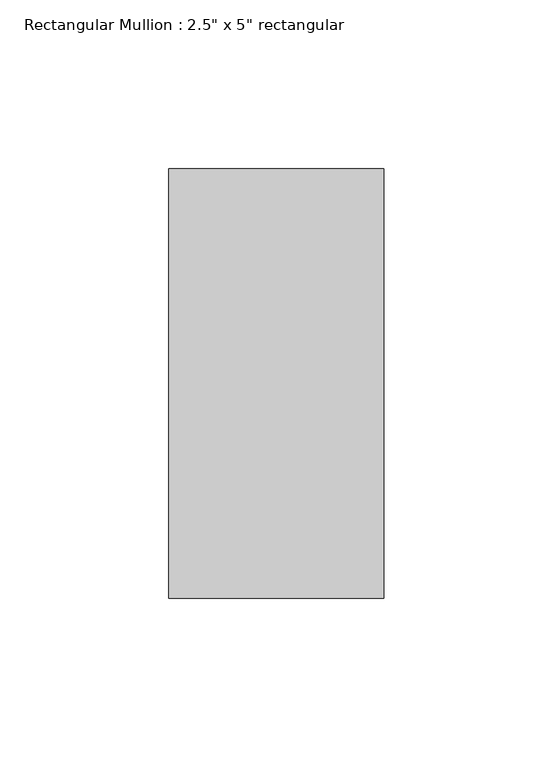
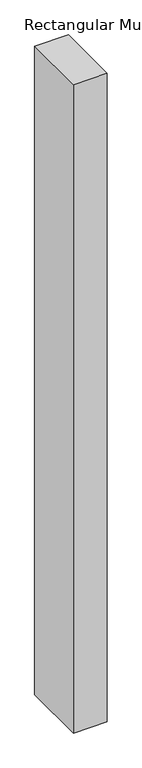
"""IFC4 building model written with IfcOpenShell, lengths in millimetres: member geometry."""

import ifcopenshell
import ifcopenshell.guid

model = None  # the IFC model being written
_history = None  # IfcOwnerHistory: only IFC2X3 demands one
_inside = {}  # id of a spatial element -> (the spatial element, [elements in it])
_under = {}  # id of a project, library or spatial element -> (it, [spatial elements below it])
_declared = {}  # id of a project -> (the project, [libraries it declares])
_typed = {}  # id of a type object -> (the type object, [elements of that type])
_made_of = {}  # id of a material, layer set ... -> (it, [elements and type objects made of it])


def new_model(schema):
    """Start an empty IFC model of exactly this schema.

    Asked for "IFC4X3", IfcOpenShell would pick the latest addendum, in which some entities
    have other attributes; the version numbers below select the first issue.
    IFC2X3 requires an IfcOwnerHistory on every rooted entity: one is made here for all.
    """
    global model, _history
    if schema == "IFC4X3":
        model = ifcopenshell.file(schema_version=(4, 3, 0, 0))
    else:
        model = ifcopenshell.file(schema=schema)
    _inside.clear()
    _under.clear()
    _declared.clear()
    _typed.clear()
    _made_of.clear()
    _history = None
    if model.schema == "IFC2X3":
        org = make("IfcOrganization", Name="unknown")
        user = make(
            "IfcPersonAndOrganization",
            ThePerson=make("IfcPerson", FamilyName="unknown"),
            TheOrganization=org,
        )
        app = make(
            "IfcApplication",
            ApplicationDeveloper=org,
            Version="unknown",
            ApplicationFullName="unknown",
            ApplicationIdentifier="unknown",
        )
        _history = make(
            "IfcOwnerHistory",
            OwningUser=user,
            OwningApplication=app,
            ChangeAction="ADDED",
            CreationDate=0,
        )
    return model


def make(cls, **values):
    """One entity of the class cls with the attributes given. An attribute that is None is left unset."""
    return model.create_entity(
        cls, **{name: value for name, value in values.items() if value is not None}
    )


def rooted(cls, **values):
    """An entity with a GlobalId (a new one), such as an element, a storey or a relation."""
    return make(cls, GlobalId=ifcopenshell.guid.new(), OwnerHistory=_history, **values)


def si_unit(unit_type, name, prefix=None):
    """IfcSIUnit, for example si_unit("LENGTHUNIT", "METRE", prefix="MILLI")."""
    return make("IfcSIUnit", UnitType=unit_type, Prefix=prefix, Name=name)


def assignment(units):
    """IfcUnitAssignment: the units of a project."""
    return None if units is None else make("IfcUnitAssignment", Units=units)


def point(xyz):
    """IfcCartesianPoint."""
    return None if xyz is None else make("IfcCartesianPoint", Coordinates=xyz)


def direction(xyz):
    """IfcDirection."""
    return None if xyz is None else make("IfcDirection", DirectionRatios=xyz)


def frame(location, z_axis=None, x_axis=None):
    """IfcAxis2Placement3D, a coordinate frame: its origin and axes. An axis left out is left unset."""
    return make(
        "IfcAxis2Placement3D",
        Location=point(location),
        Axis=direction(z_axis),
        RefDirection=direction(x_axis),
    )


def origin():
    """The frame at (0, 0, 0) with its axes left unset."""
    return frame((0.0, 0.0, 0.0))


def place(relative_to, where):
    """IfcLocalPlacement: puts the frame where relative to a parent placement (None: the world)."""
    return make(
        "IfcLocalPlacement", PlacementRelTo=relative_to, RelativePlacement=where
    )


def context(
    kind, dimensions, precision=None, world=None, true_north=None, identifier=None
):
    """IfcGeometricRepresentationContext, for example the 3D "Model" context."""
    return make(
        "IfcGeometricRepresentationContext",
        ContextIdentifier=identifier,
        ContextType=kind,
        CoordinateSpaceDimension=dimensions,
        Precision=precision,
        WorldCoordinateSystem=world,
        TrueNorth=true_north,
    )


def project(units=None, contexts=None):
    """IfcProject with its units and contexts."""
    return rooted(
        "IfcProject",
        Name="project",
        RepresentationContexts=contexts,
        UnitsInContext=assignment(units),
    )


def spatial(cls, under=None, at=None, **own):
    """A site, building, storey or space (cls), placed at a placement, below another one or the project."""
    s = rooted(cls, ObjectPlacement=at, **own)
    if under is not None:
        _under.setdefault(under.id(), (under, []))[1].append(s)
    return s


def polyline(points):
    """IfcPolyline through the points."""
    return make("IfcPolyline", Points=[point(p) for p in points])


def outline(outer, holes=None, kind="AREA"):
    """IfcArbitraryClosedProfileDef: a profile drawn as a closed curve; with holes, ...WithVoids."""
    if holes is None:
        return make("IfcArbitraryClosedProfileDef", ProfileType=kind, OuterCurve=outer)
    return make(
        "IfcArbitraryProfileDefWithVoids",
        ProfileType=kind,
        OuterCurve=outer,
        InnerCurves=holes,
    )


def extrude(swept, where, along, depth):
    """IfcExtrudedAreaSolid: the profile swept, set in the frame where, extruded along a direction by depth."""
    return make(
        "IfcExtrudedAreaSolid",
        SweptArea=swept,
        Position=where,
        ExtrudedDirection=direction(along),
        Depth=depth,
    )


def shape(context_of_items, identifier, shape_type, items):
    """IfcShapeRepresentation: the items that make up one representation, for example the "Body"."""
    return make(
        "IfcShapeRepresentation",
        ContextOfItems=context_of_items,
        RepresentationIdentifier=identifier,
        RepresentationType=shape_type,
        Items=items,
    )


def source(mapping_origin, context_of_items, identifier, shape_type, items):
    """IfcRepresentationMap: a shape defined once, which mapped items show again and again."""
    return make(
        "IfcRepresentationMap",
        MappingOrigin=mapping_origin,
        MappedRepresentation=shape(context_of_items, identifier, shape_type, items),
    )


def transform(
    local_origin,
    x_axis=None,
    y_axis=None,
    z_axis=None,
    scale=None,
    scale2=None,
    scale3=None,
    uniform=True,
):
    """IfcCartesianTransformationOperator3D, or its non-uniform kind. x_axis, y_axis, z_axis: its Axis1, 2, 3."""
    if uniform:
        return make(
            "IfcCartesianTransformationOperator3D",
            Axis1=direction(x_axis),
            Axis2=direction(y_axis),
            LocalOrigin=point(local_origin),
            Scale=scale,
            Axis3=direction(z_axis),
        )
    return make(
        "IfcCartesianTransformationOperator3DnonUniform",
        Axis1=direction(x_axis),
        Axis2=direction(y_axis),
        LocalOrigin=point(local_origin),
        Scale=scale,
        Axis3=direction(z_axis),
        Scale2=scale2,
        Scale3=scale3,
    )


def mapped(mapping_source, mapping_target):
    """IfcMappedItem: shows the shape of a source again, moved by a transform."""
    return make(
        "IfcMappedItem", MappingSource=mapping_source, MappingTarget=mapping_target
    )


def made_of(thing, what):
    """Note that an element or type object is made of a material, layer set ...; save() writes the relation."""
    if what is not None:
        _made_of.setdefault(what.id(), (what, []))[1].append(thing)
    return thing


def element(
    cls,
    number,
    at=None,
    inside=None,
    cuts=None,
    type_object=None,
    material=None,
    context=None,
    identifier="Body",
    shape_type=None,
    held_by="IfcProductDefinitionShape",
    body=None,
    shapes=None,
    **own,
):
    """One element of the class cls, such as IfcWall. Its Tag is "e" and its number.

    at: its placement. inside: the storey or other place that contains it. cuts: it is an
    opening in that element (IfcRelVoidsElement). A single representation is given by context,
    identifier, shape_type and body (its items); several are given by shapes. held_by: the class
    of the entity that holds the representations. save() writes the other relations.
    """
    e = rooted(cls, Tag="e%d" % number, ObjectPlacement=at, **own)
    if body is not None:
        shapes = [shape(context, identifier, shape_type, body)]
    if shapes is not None:
        e.Representation = make(held_by, Representations=shapes)
    if inside is not None:
        _inside.setdefault(inside.id(), (inside, []))[1].append(e)
    if cuts is not None:
        rooted(
            "IfcRelVoidsElement", RelatingBuildingElement=cuts, RelatedOpeningElement=e
        )
    if type_object is not None:
        _typed.setdefault(type_object.id(), (type_object, []))[1].append(e)
    return made_of(e, material)


def aggregate(whole, parts):
    """IfcRelAggregates: a whole, such as a stair, and the parts it consists of."""
    return rooted("IfcRelAggregates", RelatingObject=whole, RelatedObjects=parts)


def save(model, path):
    """Write the relations noted so far, then the file.

    IfcRelAggregates (storeys below a building ...), IfcRelContainedInSpatialStructure (elements
    in a storey), IfcRelDefinesByType, IfcRelAssociatesMaterial and IfcRelDeclares: one each for
    every whole, place, type object, material and project.
    """
    for whole, parts in _under.values():
        aggregate(whole, parts)
    for where, things in _inside.values():
        rooted(
            "IfcRelContainedInSpatialStructure",
            RelatedElements=things,
            RelatingStructure=where,
        )
    for kind, things in _typed.values():
        rooted("IfcRelDefinesByType", RelatedObjects=things, RelatingType=kind)
    for what, things in _made_of.values():
        rooted("IfcRelAssociatesMaterial", RelatedObjects=things, RelatingMaterial=what)
    for by, libraries in _declared.values():
        rooted("IfcRelDeclares", RelatingContext=by, RelatedDefinitions=libraries)
    model.write(path)


def member_fe566af5(model_context):
    return source(origin(), model_context, "Body", "SweptSolid", [
        extrude(outline(polyline([(0.0, 63.5), (0.0, -63.5), (-63.5, -63.5), (-63.5, 63.5), (0.0, 63.5)])), frame((0.0, 0.0, -1295.6590909), z_axis=(0.0, 0.0, 1.0), x_axis=(1.0, 0.0, 0.0)), (0.0, 0.0, 1.0), 1295.6590909),
    ])


if __name__ == "__main__":
    model = new_model("IFC4")
    model_context = context("Model", 3, world=origin())
    ifc_project = project(units=[si_unit("LENGTHUNIT", "METRE", prefix="MILLI")], contexts=[model_context])
    site = spatial("IfcSite", under=ifc_project)
    building = spatial("IfcBuilding", under=site)
    placement = place(None, origin())
    member_shape = member_fe566af5(model_context)
    element("IfcMember", 1, ObjectType="Rectangular Mullion : 2.5\" x 5\" rectangular", at=placement, inside=building, context=model_context, shape_type="MappedRepresentation", body=[
        mapped(member_shape, transform((0.0, 0.0, 0.0), x_axis=(1.0, 0.0, 0.0), y_axis=(0.0, 1.0, 0.0), z_axis=(0.0, 0.0, 1.0))),
    ])
    save(model, "model.ifc")
